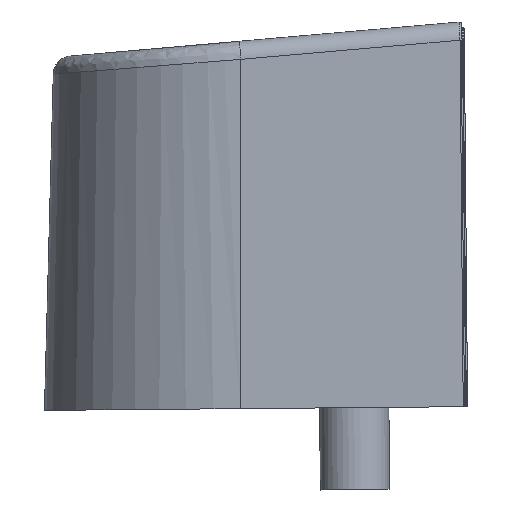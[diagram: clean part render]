
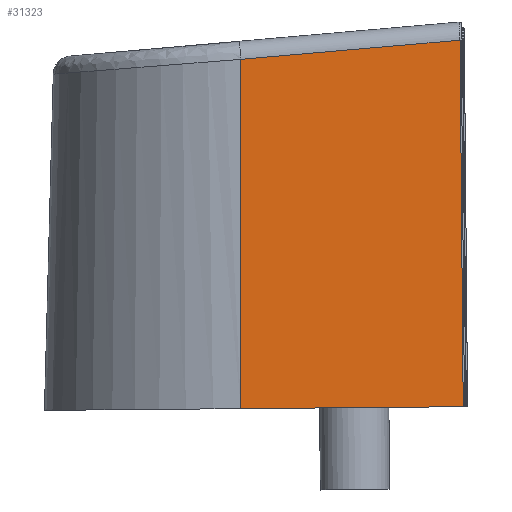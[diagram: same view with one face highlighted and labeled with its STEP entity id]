
A CAD part, left-side view. The second image highlights one B-rep face of the part: STEP entity #31323.
In plain terms, the highlighted planar face has unit normal (-1, 0, 0.026).
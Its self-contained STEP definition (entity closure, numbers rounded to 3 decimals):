
#9044 = DIRECTION ( 'NONE',  ( -0.026, 0., -1. ) ) ;
#10760 = CARTESIAN_POINT ( 'NONE',  ( -56.578, -65.326, 59.008 ) ) ;
#13219 = VERTEX_POINT ( 'NONE', #74430 ) ;
#19900 = ORIENTED_EDGE ( 'NONE', *, *, #69526, .T. ) ;
#21694 = LINE ( 'NONE', #51061, #57667 ) ;
#28783 = EDGE_CURVE ( 'NONE', #13219, #75785, #97246, .T. ) ;
#31323 = ADVANCED_FACE ( 'NONE', ( #95176 ), #73159, .T. ) ;
#31693 = DIRECTION ( 'NONE',  ( -0.002, 0.996, -0.087 ) ) ;
#33686 = DIRECTION ( 'NONE',  ( 0., 1., 0. ) ) ;
#40413 = LINE ( 'NONE', #100540, #92419 ) ;
#43192 = ORIENTED_EDGE ( 'NONE', *, *, #104208, .T. ) ;
#51061 = CARTESIAN_POINT ( 'NONE',  ( -56.726, -0.753, 53.359 ) ) ;
#57667 = VECTOR ( 'NONE', #31693, 1000. ) ;
#61123 = VERTEX_POINT ( 'NONE', #10760 ) ;
#61183 = EDGE_LOOP ( 'NONE', ( #96318, #19900, #43192, #67529 ) ) ;
#67529 = ORIENTED_EDGE ( 'NONE', *, *, #128174, .T. ) ;
#69526 = EDGE_CURVE ( 'NONE', #13219, #61123, #70194, .T. ) ;
#70194 = LINE ( 'NONE', #110295, #74457 ) ;
#73159 = PLANE ( 'NONE',  #80866 ) ;
#74430 = CARTESIAN_POINT ( 'NONE',  ( -58.123, -65.841, -0.006 ) ) ;
#74457 = VECTOR ( 'NONE', #110956, 1000. ) ;
#75512 = VECTOR ( 'NONE', #78528, 1000. ) ;
#75785 = VERTEX_POINT ( 'NONE', #111167 ) ;
#78528 = DIRECTION ( 'NONE',  ( 0., 1., -0.009 ) ) ;
#80866 = AXIS2_PLACEMENT_3D ( 'NONE', #123919, #84525, #33686 ) ;
#84052 = CARTESIAN_POINT ( 'NONE',  ( -56.658, -30.049, 55.922 ) ) ;
#84525 = DIRECTION ( 'NONE',  ( -1., 0., 0.026 ) ) ;
#92419 = VECTOR ( 'NONE', #9044, 1000. ) ;
#95176 = FACE_OUTER_BOUND ( 'NONE', #61183, .T. ) ;
#96318 = ORIENTED_EDGE ( 'NONE', *, *, #28783, .F. ) ;
#97246 = LINE ( 'NONE', #129950, #75512 ) ;
#100540 = CARTESIAN_POINT ( 'NONE',  ( -56.5, -30.049, 61.956 ) ) ;
#104208 = EDGE_CURVE ( 'NONE', #61123, #113029, #21694, .T. ) ;
#110295 = CARTESIAN_POINT ( 'NONE',  ( -56.577, -65.326, 59.024 ) ) ;
#110956 = DIRECTION ( 'NONE',  ( 0.026, 0.009, 1. ) ) ;
#111167 = CARTESIAN_POINT ( 'NONE',  ( -58.131, -30.049, -0.318 ) ) ;
#113029 = VERTEX_POINT ( 'NONE', #84052 ) ;
#123919 = CARTESIAN_POINT ( 'NONE',  ( -56.5, 0., 61.956 ) ) ;
#128174 = EDGE_CURVE ( 'NONE', #113029, #75785, #40413, .T. ) ;
#129950 = CARTESIAN_POINT ( 'NONE',  ( -58.123, -66.576, 0. ) ) ;
